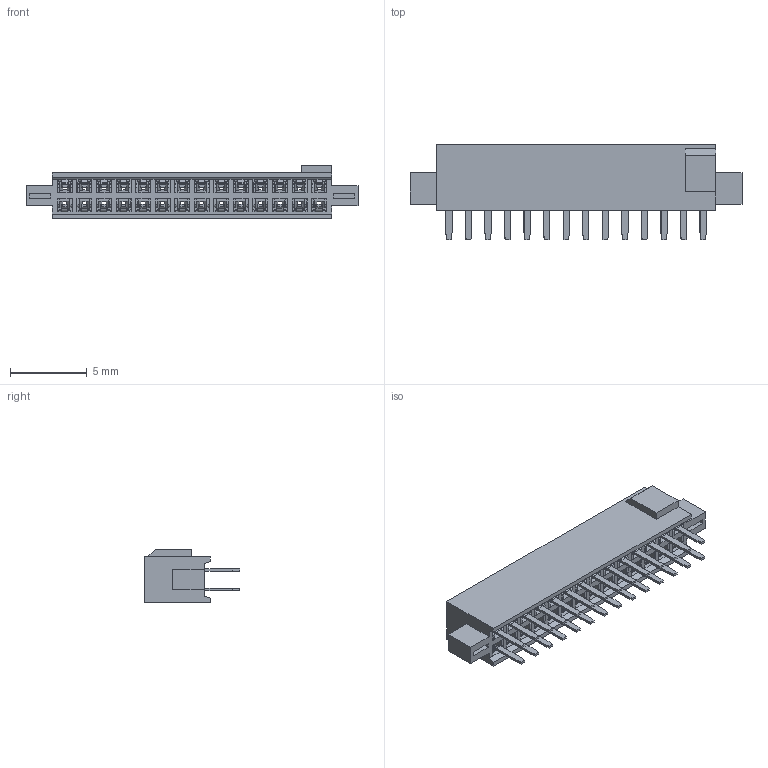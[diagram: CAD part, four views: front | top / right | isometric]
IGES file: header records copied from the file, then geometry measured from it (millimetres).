
Start section: SolidWorks IGES file using analytic representation for surfaces
Global section: file name: D:\RD\品管\3DS\未歸檔資料\2243-28C00SO2U\2243-28C00SO2U.IGS; native system: SolidWorks 2011; preprocessor: SolidWorks 2011; author: rd03; date: 150527.090737; units: millimetre
Bounding box: 21.56 x 6.21 x 3.5 mm (x, y, z)
Surface area: 1130.8 mm2 (no closed solid volume)
Topology: 0 solids, 0 shells, 3841 faces, 25150 edges, 25150 vertices
Faces by surface type: bspline 2385, revolution 1456
